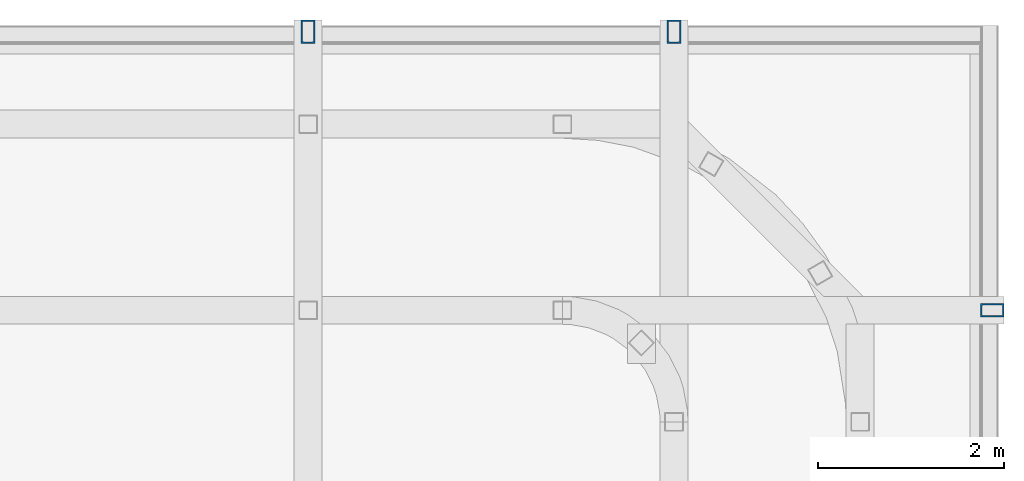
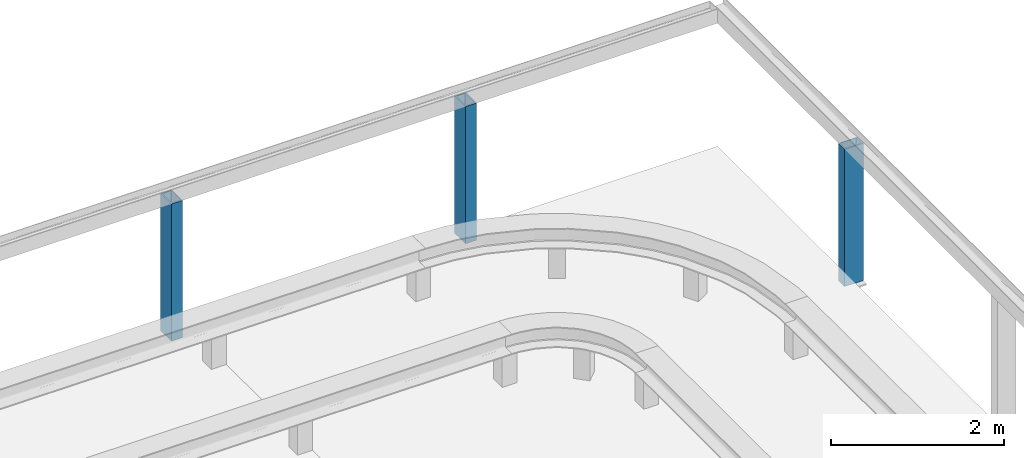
# One storey, part 5 of 27: 3 columns.
"""IFC2X3 building model written with IfcOpenShell, lengths in millimetres."""

from ifc_helpers import new_model, entity, si_unit, converted_unit, derived_unit, direction, frame, frame_2d, origin, place, context, subcontext, project, spatial, polyline, circle_curve, parameter, trimmed, segment, composite_curve, outline, extrude, source, transform, mapped, material, type_object, type_shapes, element, save


model = new_model("IFC2X3")

# Units and contexts
model_context = context("Model", 3, precision=0.01, world=origin(), true_north=direction((6.12303176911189e-17, 1.0)))
body_context = subcontext(model_context, "Body", "Model", "MODEL_VIEW")
ifc_project = project(units=[si_unit("LENGTHUNIT", "METRE", prefix="MILLI"), si_unit("AREAUNIT", "SQUARE_METRE"), si_unit("VOLUMEUNIT", "CUBIC_METRE"), converted_unit("PLANEANGLEUNIT", "DEGREE", entity("IfcRatioMeasure", 0.0174532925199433), si_unit("PLANEANGLEUNIT", "RADIAN"), dimensions=[0, 0, 0, 0, 0, 0, 0]), si_unit("MASSUNIT", "GRAM", prefix="KILO"), derived_unit("MASSDENSITYUNIT", [(si_unit("MASSUNIT", "GRAM", prefix="KILO"), 1), (si_unit("LENGTHUNIT", "METRE"), -3)]), si_unit("TIMEUNIT", "SECOND"), si_unit("FREQUENCYUNIT", "HERTZ"), si_unit("THERMODYNAMICTEMPERATUREUNIT", "DEGREE_CELSIUS"), derived_unit("THERMALTRANSMITTANCEUNIT", [(si_unit("MASSUNIT", "GRAM", prefix="KILO"), 1), (si_unit("THERMODYNAMICTEMPERATUREUNIT", "KELVIN"), -1), (si_unit("TIMEUNIT", "SECOND"), -3)]), derived_unit("VOLUMETRICFLOWRATEUNIT", [(si_unit("LENGTHUNIT", "METRE"), 3), (si_unit("TIMEUNIT", "SECOND"), -1)]), si_unit("ELECTRICCURRENTUNIT", "AMPERE"), si_unit("ELECTRICVOLTAGEUNIT", "VOLT"), si_unit("POWERUNIT", "WATT"), si_unit("FORCEUNIT", "NEWTON", prefix="KILO"), si_unit("ILLUMINANCEUNIT", "LUX"), si_unit("LUMINOUSFLUXUNIT", "LUMEN"), si_unit("LUMINOUSINTENSITYUNIT", "CANDELA"), derived_unit("USERDEFINED", [(si_unit("MASSUNIT", "GRAM", prefix="KILO"), -1), (si_unit("LENGTHUNIT", "METRE"), -2), (si_unit("TIMEUNIT", "SECOND"), 3), (si_unit("LUMINOUSFLUXUNIT", "LUMEN"), 1)]), derived_unit("LINEARVELOCITYUNIT", [(si_unit("LENGTHUNIT", "METRE"), 1), (si_unit("TIMEUNIT", "SECOND"), -1)]), si_unit("PRESSUREUNIT", "PASCAL"), derived_unit("USERDEFINED", [(si_unit("LENGTHUNIT", "METRE"), -2), (si_unit("MASSUNIT", "GRAM", prefix="KILO"), 1), (si_unit("TIMEUNIT", "SECOND"), -2)])], contexts=[model_context])

# Site, building, storey
site_placement = place(None, origin())
site = spatial("IfcSite", under=ifc_project, at=site_placement, Name="Default", CompositionType="ELEMENT")
building_placement = place(site_placement, origin())
building = spatial("IfcBuilding", under=site, at=building_placement, Name="niet gebruiken", CompositionType="ELEMENT")
storey_placement = place(building_placement, frame((0.0, 0.0, 187640.0)))
storey = spatial("IfcBuildingStorey", under=building, at=storey_placement, Name="59 negenenvijftigste verdieping", CompositionType="ELEMENT", Elevation=187640.0)

# Columns
ifc_material = material(Name="NLRS_h2_staal")
column_type_1 = type_object("IfcColumnType", Name="kolom buisprofiel rechthoekig RHSH_250x150x16", PredefinedType="COLUMN", material=ifc_material)
shared_shape_1 = source(origin(), body_context, "Body", "SweptSolid", [
    extrude(outline(polyline([(-125.0, -75.0), (125.0, -75.0), (125.0, 75.0), (-125.0, 75.0), (-125.0, -75.0)]), holes=[composite_curve([segment(trimmed(circle_curve(frame_2d((-96.5, -46.5), x_axis=(0.0, 1.0)), 12.5), [parameter(90.0)], [parameter(180.0)], True, "PARAMETER"), False, "CONTINUOUS"), segment(polyline([(-109.0, -46.4999999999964), (-109.0, 46.5)]), True, "CONTINUOUS"), segment(trimmed(circle_curve(frame_2d((-96.5, 46.5), x_axis=(0.0, 1.0)), 12.5), [parameter(360.0)], [parameter(89.9999999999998)], True, "PARAMETER"), False, "CONTINUOUS"), segment(polyline([(-96.5, 59.0), (96.5, 59.0)]), True, "CONTINUOUS"), segment(trimmed(circle_curve(frame_2d((96.5, 46.5), x_axis=(0.0, 1.0)), 12.5), [parameter(270.0)], [parameter(360.0)], True, "PARAMETER"), False, "CONTINUOUS"), segment(polyline([(109.0, 46.5), (109.0, -46.4999999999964)]), True, "CONTINUOUS"), segment(trimmed(circle_curve(frame_2d((96.5, -46.5), x_axis=(0.0, 1.0)), 12.5), [parameter(180.0)], [parameter(270.0)], True, "PARAMETER"), False, "CONTINUOUS"), segment(polyline([(96.5, -59.0), (-96.5, -59.0)]), True, "CONTINUOUS")], self_intersect=False)]), frame((155005.0, 28135.0, 187350.0)), (0.0, 0.0, 1.0), 1940.00000000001),
])
type_shapes(column_type_1, [shared_shape_1])
column_1_placement = place(storey_placement, frame((0.0, 0.0, -187640.0)))
element("IfcColumn", 1, at=column_1_placement, inside=storey, type_object=column_type_1, material=ifc_material, Name="NLRS_28.11_SCO_TLB_stalen kolom buisprofiel rechthoekig_gen:kolom buisprofiel rechthoekig RHSH_250x150x16", ObjectType="kolom buisprofiel rechthoekig RHSH_250x150x16", context=body_context, shape_type="MappedRepresentation", body=[
    mapped(shared_shape_1, transform((0.0, 0.0, 0.0), scale=1.0)),
])
column_type_2 = type_object("IfcColumnType", Name="kolom buisprofiel rechthoekig RHSH_250x150x16", PredefinedType="COLUMN", material=ifc_material)
shared_shape_2 = source(origin(), body_context, "Body", "SweptSolid", [
    extrude(outline(polyline([(-125.0, -75.0), (125.0, -75.0), (125.0, 75.0), (-125.0, 75.0), (-125.0, -75.0)]), holes=[composite_curve([segment(trimmed(circle_curve(frame_2d((-96.5000000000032, -46.4999999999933), x_axis=(0.0, 1.0)), 12.5), [parameter(90.0)], [parameter(180.0)], True, "PARAMETER"), False, "CONTINUOUS"), segment(polyline([(-109.0, -46.4999999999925), (-109.0, 46.4999999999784)]), True, "CONTINUOUS"), segment(trimmed(circle_curve(frame_2d((-96.5000000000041, 46.5000000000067), x_axis=(0.0, 1.0)), 12.5), [parameter(360.0)], [parameter(89.9999999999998)], True, "PARAMETER"), False, "CONTINUOUS"), segment(polyline([(-96.4999999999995, 59.0), (96.5000000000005, 59.0)]), True, "CONTINUOUS"), segment(trimmed(circle_curve(frame_2d((96.4999999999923, 46.4999999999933), x_axis=(0.0, 1.0)), 12.5), [parameter(270.0)], [parameter(360.0)], True, "PARAMETER"), False, "CONTINUOUS"), segment(polyline([(109.0, 46.4999999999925), (109.0, -46.5000000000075)]), True, "CONTINUOUS"), segment(trimmed(circle_curve(frame_2d((96.4999999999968, -46.5000000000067), x_axis=(0.0, 1.0)), 12.5), [parameter(180.0)], [parameter(270.0)], True, "PARAMETER"), False, "CONTINUOUS"), segment(polyline([(96.4999999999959, -59.0), (-96.5000000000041, -59.0)]), True, "CONTINUOUS")], self_intersect=False)]), frame((147650.0, 31130.0, 187350.0), z_axis=(0.0, 0.0, 1.0), x_axis=(0.0, 1.0, 0.0)), (0.0, 0.0, 1.0), 1940.00000000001),
])
type_shapes(column_type_2, [shared_shape_2])
column_2_placement = place(storey_placement, frame((0.0, 0.0, -187640.0)))
element("IfcColumn", 2, at=column_2_placement, inside=storey, type_object=column_type_2, material=ifc_material, Name="NLRS_28.11_SCO_TLB_stalen kolom buisprofiel rechthoekig_gen:kolom buisprofiel rechthoekig RHSH_250x150x16", ObjectType="kolom buisprofiel rechthoekig RHSH_250x150x16", context=body_context, shape_type="MappedRepresentation", body=[
    mapped(shared_shape_2, transform((0.0, 0.0, 0.0), scale=1.0)),
])
column_type_3 = type_object("IfcColumnType", Name="kolom buisprofiel rechthoekig RHSH_250x150x16", PredefinedType="COLUMN", material=ifc_material)
shared_shape_3 = source(origin(), body_context, "Body", "SweptSolid", [
    extrude(outline(polyline([(-125.0, -75.0), (125.0, -75.0), (125.0, 75.0), (-125.0, 75.0), (-125.0, -75.0)]), holes=[composite_curve([segment(trimmed(circle_curve(frame_2d((-96.5000000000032, -46.4999999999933), x_axis=(0.0, 1.0)), 12.5), [parameter(90.0)], [parameter(180.0)], True, "PARAMETER"), False, "CONTINUOUS"), segment(polyline([(-109.0, -46.4999999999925), (-109.0, 46.5000000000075)]), True, "CONTINUOUS"), segment(trimmed(circle_curve(frame_2d((-96.5000000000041, 46.5000000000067), x_axis=(0.0, 1.0)), 12.5), [parameter(360.0)], [parameter(89.9999999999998)], True, "PARAMETER"), False, "CONTINUOUS"), segment(polyline([(-96.4999999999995, 59.0), (96.5000000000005, 59.0)]), True, "CONTINUOUS"), segment(trimmed(circle_curve(frame_2d((96.499999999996, 46.4999999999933), x_axis=(0.0, 1.0)), 12.5), [parameter(270.0)], [parameter(360.0)], True, "PARAMETER"), False, "CONTINUOUS"), segment(polyline([(109.0, 46.4999999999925), (109.0, -46.5000000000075)]), True, "CONTINUOUS"), segment(trimmed(circle_curve(frame_2d((96.4999999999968, -46.5000000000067), x_axis=(0.0, 1.0)), 12.5), [parameter(180.0)], [parameter(270.0)], True, "PARAMETER"), False, "CONTINUOUS"), segment(polyline([(96.4999999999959, -59.0), (-96.5000000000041, -59.0)]), True, "CONTINUOUS")], self_intersect=False)]), frame((151583.333333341, 31130.0, 187350.0), z_axis=(0.0, 0.0, 1.0), x_axis=(0.0, 1.0, 0.0)), (0.0, 0.0, 1.0), 1940.00000000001),
])
type_shapes(column_type_3, [shared_shape_3])
column_3_placement = place(storey_placement, frame((0.0, 0.0, -187640.0)))
element("IfcColumn", 3, at=column_3_placement, inside=storey, type_object=column_type_3, material=ifc_material, Name="NLRS_28.11_SCO_TLB_stalen kolom buisprofiel rechthoekig_gen:kolom buisprofiel rechthoekig RHSH_250x150x16", ObjectType="kolom buisprofiel rechthoekig RHSH_250x150x16", context=body_context, shape_type="MappedRepresentation", body=[
    mapped(shared_shape_3, transform((0.0, 0.0, 0.0), scale=1.0)),
])

save(model, "model.ifc")
